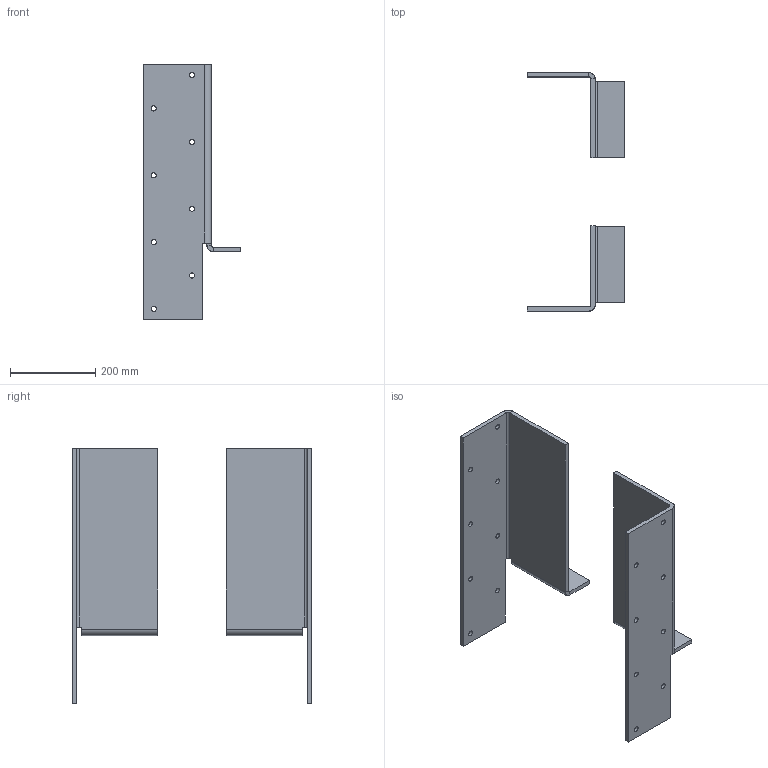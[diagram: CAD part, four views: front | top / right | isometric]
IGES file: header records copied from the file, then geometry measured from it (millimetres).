
Start section: SolidWorks IGES file using analytic representation for surfaces
Global section: file name: C:\Users\cbrechard\Desktop\PE 384 DBR et GBR.IGS; native system: SolidWorks 2017; preprocessor: SolidWorks 2017; author: cbrechard; date: 191028.102112; units: millimetre
Bounding box: 230 x 560.8 x 600 mm (x, y, z)
Surface area: 786958.1 mm2 (no closed solid volume)
Topology: 0 solids, 0 shells, 82 faces, 1540 edges, 1540 vertices
Faces by surface type: bspline 42, revolution 40
